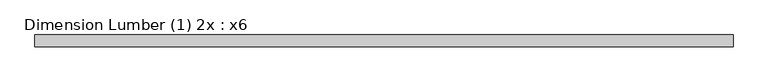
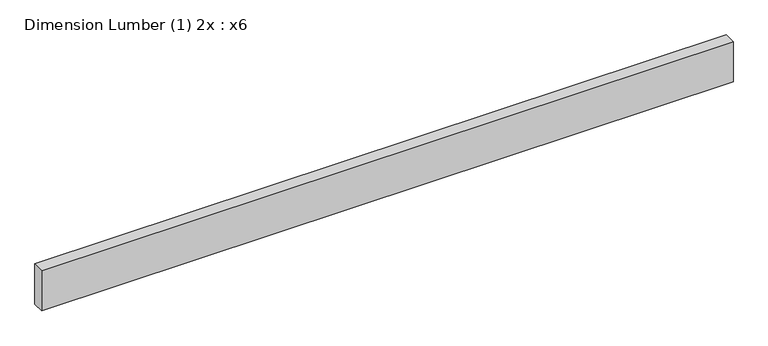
"""IFC4 building model written with IfcOpenShell, lengths in millimetres: beam geometry, Dimension Lumber (1) 2x : x6."""

from ifc_helpers import new_model, si_unit, frame, origin, place, context, project, spatial, polyline, outline, extrude, source, transform, mapped, element, save


def dimension_lumber_1_2x_x6_9289383a(model_context):
    return source(origin(), model_context, "Body", "SweptSolid", [
        extrude(outline(polyline([(1133.475, 19.05), (1133.475, -19.05), (-1133.475, -19.05), (-1133.475, 19.05), (1133.475, 19.05)])), frame((0.0, 0.0, -69.85), z_axis=(0.0, 0.0, 1.0), x_axis=(1.0, 0.0, 0.0)), (0.0, 0.0, 1.0), 139.7),
    ])


if __name__ == "__main__":
    model = new_model("IFC4")
    model_context = context("Model", 3, world=origin())
    ifc_project = project(units=[si_unit("LENGTHUNIT", "METRE", prefix="MILLI")], contexts=[model_context])
    site = spatial("IfcSite", under=ifc_project)
    building = spatial("IfcBuilding", under=site)
    placement = place(None, origin())
    dimension_lumber_1_2x_x6_shape = dimension_lumber_1_2x_x6_9289383a(model_context)
    element("IfcBeam", 1, ObjectType="Dimension Lumber (1) 2x : x6", at=placement, inside=building, context=model_context, shape_type="MappedRepresentation", body=[
        mapped(dimension_lumber_1_2x_x6_shape, transform((0.0, 0.0, 0.0), x_axis=(1.0, 0.0, 0.0), y_axis=(0.0, 1.0, 0.0), z_axis=(0.0, 0.0, 1.0))),
    ])
    save(model, "model.ifc")
